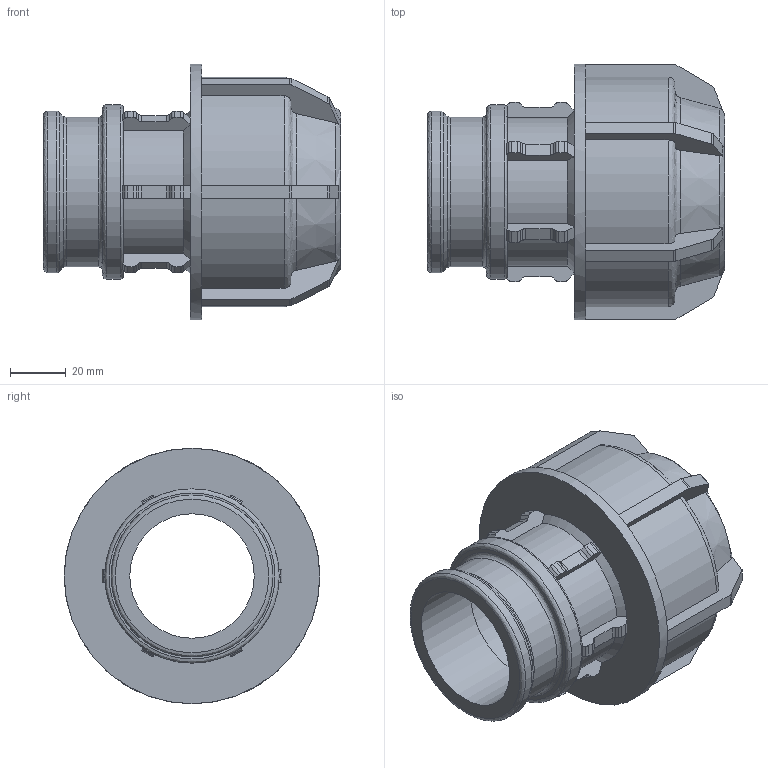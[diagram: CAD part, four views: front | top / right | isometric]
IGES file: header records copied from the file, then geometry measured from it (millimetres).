
Global section: file name: 140300050015.ipt; native system: Autodesk Inventor 2015; preprocessor: unknown; author: KIM; date: 20180409.131013; units: millimetre
Bounding box: 107 x 92 x 92 mm (x, y, z)
Volume: 197019.2 mm3; surface area: 54091.8 mm2
Topology: 1 solids, 1 shells, 259 faces, 732 edges, 472 vertices
Faces by surface type: plane 159, cylinder 52, revolution 35, cone 13
Full cylindrical faces by diameter (mm): 53.814 x1, 58.298 x1, 62.783 x1, 92 x1
